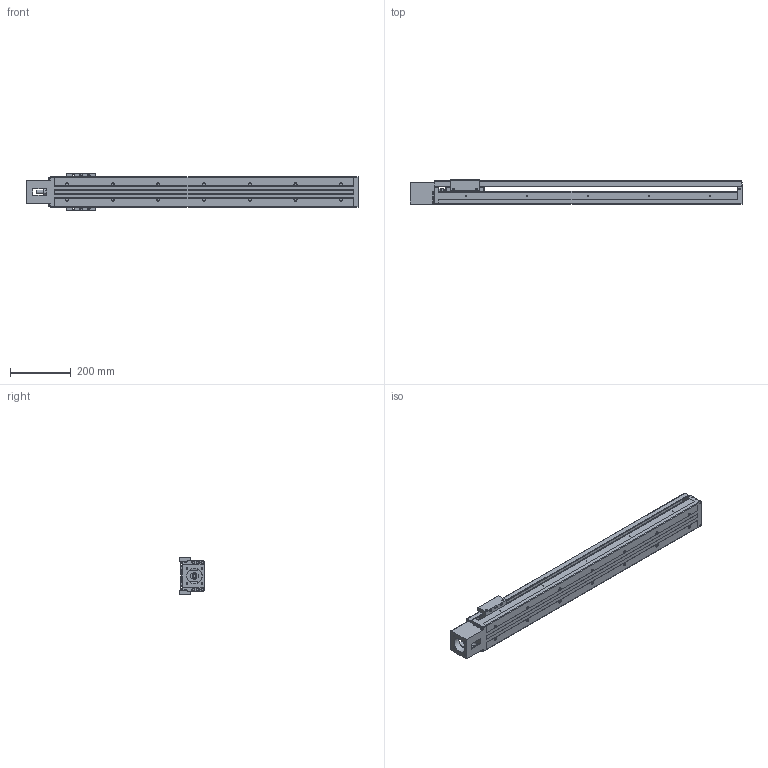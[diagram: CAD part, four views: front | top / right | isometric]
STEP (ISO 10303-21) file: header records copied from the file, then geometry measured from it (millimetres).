
FILE_DESCRIPTION(/* description */ ('STEP AP203'),/* implementation_level */ '2;1');
FILE_NAME(/* name */ 'SKR5520A-0800-0-10A0 (400W00)',/* time_stamp */ '2024-05-13T08:40:16+02:00',/* author */ ('License CC BY-ND 4.0'),/* organization */ ('CADENAS'),/* preprocessor_version */ 'ST-DEVELOPER v19.3',/* originating_system */ 'PARTsolutions',/* authorisation */ ' ');
FILE_SCHEMA (('CONFIG_CONTROL_DESIGN'));
Length unit declared in the file: millimetre
Products named in the file (3): SKR5520A-0800-0-10A0 (400W00); SKR55A-800-0-10A0_(Direct mount)---body; SKR55A-1---slider
Assembly tree (2 placements, depth 2):
  SKR5520A-0800-0-10A0 (400W00)
    SKR55A-800-0-10A0_(Direct mount)---body
    SKR55A-1---slider
Bounding box: 1089 x 80 x 124 mm (x, y, z)
Volume: 3394124.2 mm3; surface area: 821567.2 mm2
Topology: 2 solids, 2 shells, 767 faces, 1922 edges, 1242 vertices
Faces by surface type: plane 487, cylinder 182, cone 76, torus 20, sphere 2
Full cylindrical faces by diameter (mm): 2.113 x10, 2.459 x5, 4.134 x4, 4.8 x4, 4.9 x4, 5 x4, 5.2 x4, 6 x4, 6.647 x4, 8.5 x12, 9 x14, 9.2 x6, 9.5 x2, 10 x10, 12 x1, 14 x14, 15 x1, 17 x1, 20 x2, 20.6 x1, 21 x1, 30 x1, 50 x1
Entity records: 21744 total; most frequent: CARTESIAN_POINT 3772, DIRECTION 3662, ORIENTED_EDGE 3374, EDGE_CURVE 1687, VERTEX_POINT 1229, LINE 1226, VECTOR 1226, AXIS2_PLACEMENT_3D 1218
